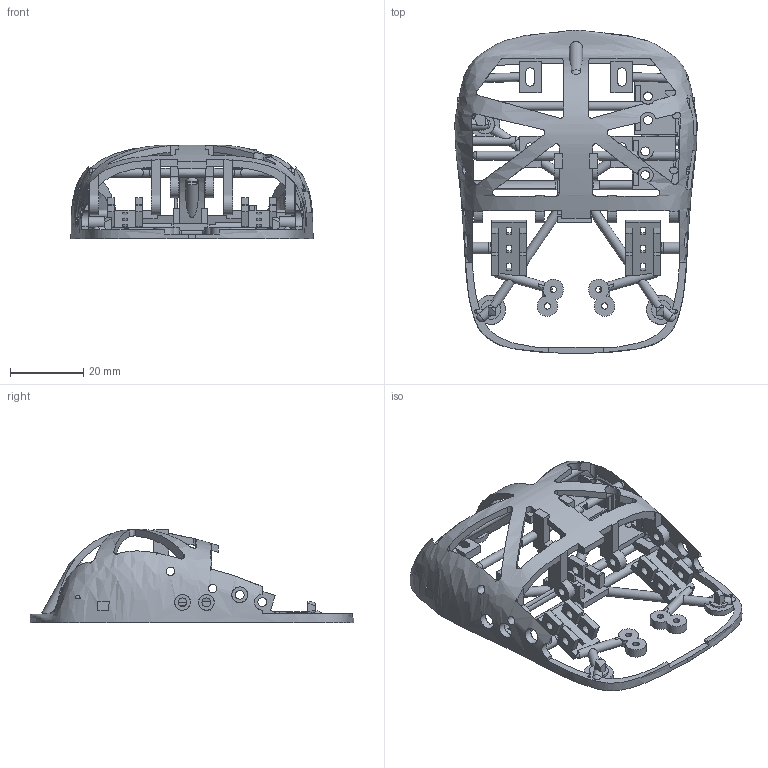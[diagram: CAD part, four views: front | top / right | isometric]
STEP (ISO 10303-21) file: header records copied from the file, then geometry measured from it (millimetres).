
FILE_DESCRIPTION(('Open CASCADE Model'),'2;1');
FILE_NAME('Open CASCADE Shape Model','2026-10-17T02:19:14',('Author'),( 'Open CASCADE'),'Open CASCADE STEP processor 7.9','Open CASCADE 7.9' ,'Unknown');
FILE_SCHEMA(('AUTOMOTIVE_DESIGN { 1 0 10303 214 1 1 1 1 }'));
Products named in the file (1): Open CASCADE STEP translator 7.9 1
Bounding box: 66.07 x 88.24 x 25.48 mm (x, y, z)
Volume: 13339.1 mm3; surface area: 18310.5 mm2
Topology: 1 solids, 1 shells, 836 faces, 2589 edges, 1697 vertices
Faces by surface type: plane 586, cylinder 202, sphere 42, bspline 6
Full cylindrical faces by diameter (mm): 1.7 x4, 2.35 x9, 2.4 x24, 2.5 x3, 2.6 x9, 3.2 x2, 4.3 x3, 5.2 x2
Entity records: 207188 total; most frequent: CARTESIAN_POINT 159933, DIRECTION 7781, ORIENTED_EDGE 5136, PCURVE 5136, DEFINITIONAL_REPRESENTATION 5136, LINE 4720, VECTOR 4720, EDGE_CURVE 2568
